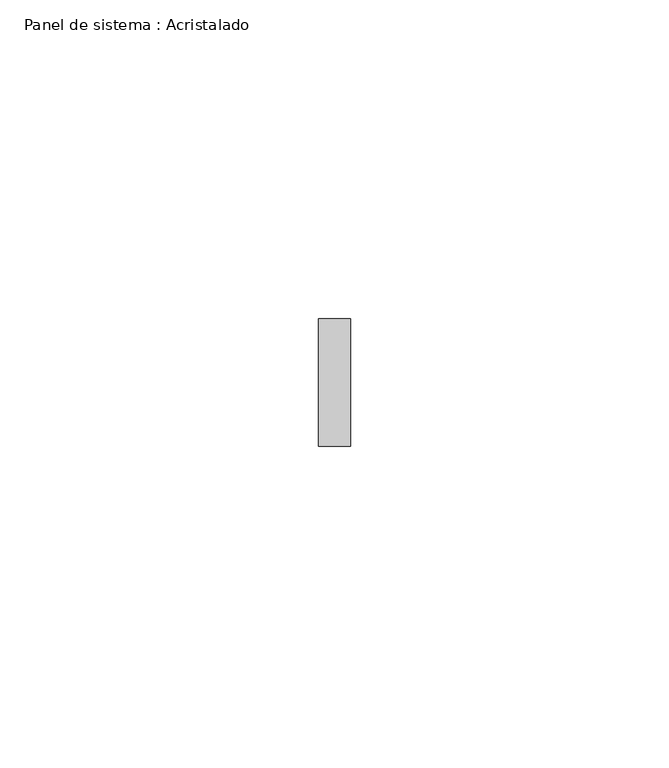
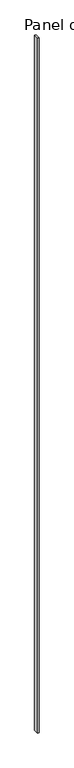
"""IFC4 building model written with IfcOpenShell, lengths in millimetres: plate geometry, Panel de sistema : Acristalado."""

from ifc_helpers import new_model, si_unit, origin, origin_with_axes, place, context, project, spatial, polyline, outline, extrude, source, transform, mapped, element, save


def panel_de_sistema_acristalado_0d9a003f(model_context):
    return source(origin(), model_context, "Body", "SweptSolid", [
        extrude(outline(polyline([(2.5, -10.0), (-2.5, -10.0), (-2.5, 10.0), (2.5, 10.0), (2.5, -10.0)])), origin_with_axes(), (0.0, 0.0, 1.0), 2820.0),
    ])


if __name__ == "__main__":
    model = new_model("IFC4")
    model_context = context("Model", 3, world=origin())
    ifc_project = project(units=[si_unit("LENGTHUNIT", "METRE", prefix="MILLI")], contexts=[model_context])
    site = spatial("IfcSite", under=ifc_project)
    building = spatial("IfcBuilding", under=site)
    placement = place(None, origin())
    panel_de_sistema_acristalado_shape = panel_de_sistema_acristalado_0d9a003f(model_context)
    element("IfcPlate", 1, ObjectType="Panel de sistema : Acristalado", at=placement, inside=building, context=model_context, shape_type="MappedRepresentation", body=[
        mapped(panel_de_sistema_acristalado_shape, transform((0.0, 0.0, 0.0), x_axis=(1.0, 0.0, 0.0), y_axis=(0.0, 1.0, 0.0), z_axis=(0.0, 0.0, 1.0))),
    ])
    save(model, "model.ifc")
